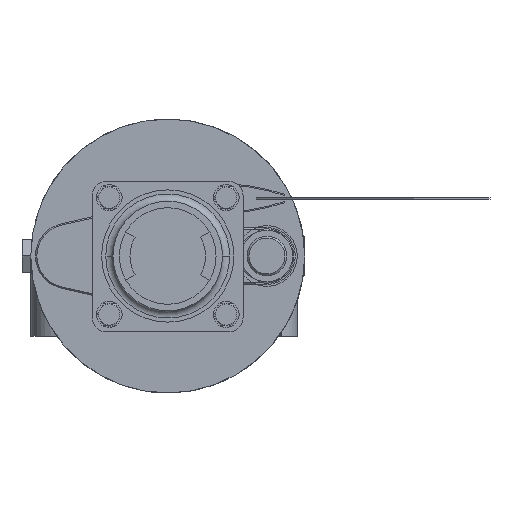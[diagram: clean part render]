
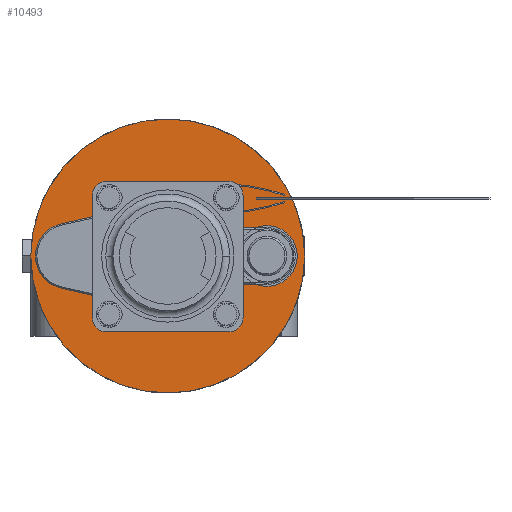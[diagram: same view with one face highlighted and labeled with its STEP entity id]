
A CAD part, front view. The second image highlights one B-rep face of the part: STEP entity #10493.
In plain terms, the highlighted planar face has unit normal (0, -1, 0).
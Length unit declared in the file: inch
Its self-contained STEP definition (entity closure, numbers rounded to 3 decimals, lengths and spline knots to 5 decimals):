
#9070=CARTESIAN_POINT('',(0.00015,30.7105,0.00015));
#9071=DIRECTION('',(0.,1.,0.));
#9072=DIRECTION('',(0.,0.,-1.));
#9073=AXIS2_PLACEMENT_3D('',#9070,#9071,#9072);
#9075=CARTESIAN_POINT('',(0.00015,30.7105,0.00015));
#9076=DIRECTION('',(0.,1.,0.));
#9077=DIRECTION('',(0.,0.,1.));
#9078=AXIS2_PLACEMENT_3D('',#9075,#9076,#9077);
#9867=CARTESIAN_POINT('',(0.00015,30.7105,-3.62485));
#9868=CARTESIAN_POINT('',(0.00015,30.7105,3.62515));
#9869=VERTEX_POINT('',#9867);
#9870=VERTEX_POINT('',#9868);
#10483=CARTESIAN_POINT('',(0.00015,30.7105,0.00015));
#10484=DIRECTION('',(0.,1.,0.));
#10485=DIRECTION('',(-1.,0.,0.));
#10486=AXIS2_PLACEMENT_3D('',#10483,#10484,#10485);
#10487=PLANE('',#10486);
#10488=ORIENTED_EDGE('',*,*,#10468,.T.);
#10490=ORIENTED_EDGE('',*,*,#10489,.T.);
#10491=EDGE_LOOP('',(#10488,#10490));
#10492=FACE_OUTER_BOUND('',#10491,.F.);
#10493=ADVANCED_FACE('',(#10492),#10487,.F.);
#9074=CIRCLE('',#9073,3.625);
#9079=CIRCLE('',#9078,3.625);
#10468=EDGE_CURVE('',#9869,#9870,#9074,.T.);
#10489=EDGE_CURVE('',#9870,#9869,#9079,.T.);
